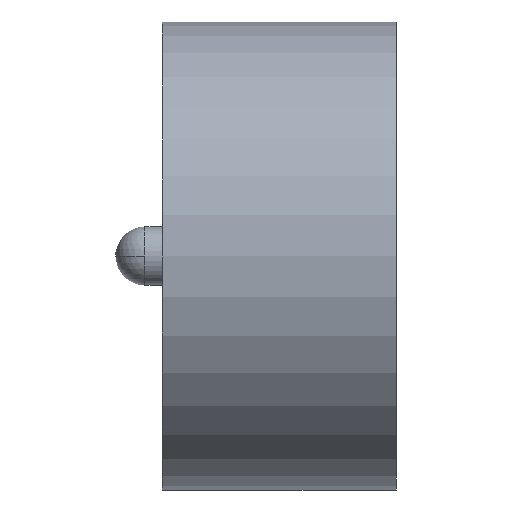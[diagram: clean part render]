
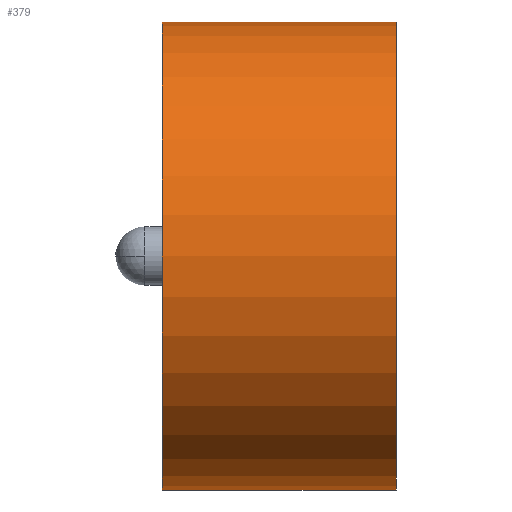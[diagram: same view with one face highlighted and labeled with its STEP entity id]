
A CAD part, left-side view. The second image highlights one B-rep face of the part: STEP entity #379.
In plain terms, the highlighted cylindrical face has radius 10 mm (diameter 20 mm), a partial arc.
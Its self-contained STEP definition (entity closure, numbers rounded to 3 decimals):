
#22 = VERTEX_POINT ( 'NONE', #201 ) ;
#29 = EDGE_CURVE ( 'NONE', #513, #638, #405, .T. ) ;
#40 = DIRECTION ( 'NONE',  ( 0., 0., -1. ) ) ;
#65 = CARTESIAN_POINT ( 'NONE',  ( -0.757, 10.5, 0. ) ) ;
#70 = AXIS2_PLACEMENT_3D ( 'NONE', #171, #519, #40 ) ;
#74 = LINE ( 'NONE', #867, #284 ) ;
#91 = ORIENTED_EDGE ( 'NONE', *, *, #315, .F. ) ;
#159 = VERTEX_POINT ( 'NONE', #568 ) ;
#171 = CARTESIAN_POINT ( 'NONE',  ( -0.757, 1.5, 0. ) ) ;
#201 = CARTESIAN_POINT ( 'NONE',  ( -0.757, 10.5, -10. ) ) ;
#217 = ORIENTED_EDGE ( 'NONE', *, *, #29, .F. ) ;
#244 = CIRCLE ( 'NONE', #810, 10. ) ;
#284 = VECTOR ( 'NONE', #652, 1000. ) ;
#315 = EDGE_CURVE ( 'NONE', #159, #513, #74, .T. ) ;
#349 = DIRECTION ( 'NONE',  ( 0., 0., -1. ) ) ;
#377 = EDGE_LOOP ( 'NONE', ( #91, #680, #522, #217 ) ) ;
#379 = ADVANCED_FACE ( 'NONE', ( #641 ), #701, .T. ) ;
#389 = CARTESIAN_POINT ( 'NONE',  ( -0.757, 1.5, -10. ) ) ;
#393 = AXIS2_PLACEMENT_3D ( 'NONE', #696, #835, #349 ) ;
#405 = CIRCLE ( 'NONE', #393, 10. ) ;
#471 = DIRECTION ( 'NONE',  ( 0., -1., 0. ) ) ;
#479 = VECTOR ( 'NONE', #471, 1000. ) ;
#485 = CARTESIAN_POINT ( 'NONE',  ( -0.757, 0.5, -10. ) ) ;
#513 = VERTEX_POINT ( 'NONE', #542 ) ;
#519 = DIRECTION ( 'NONE',  ( 0., -1., 0. ) ) ;
#522 = ORIENTED_EDGE ( 'NONE', *, *, #617, .T. ) ;
#542 = CARTESIAN_POINT ( 'NONE',  ( -0.757, 0.5, 10. ) ) ;
#554 = LINE ( 'NONE', #389, #479 ) ;
#568 = CARTESIAN_POINT ( 'NONE',  ( -0.757, 10.5, 10. ) ) ;
#581 = EDGE_CURVE ( 'NONE', #159, #22, #244, .T. ) ;
#617 = EDGE_CURVE ( 'NONE', #22, #638, #554, .T. ) ;
#638 = VERTEX_POINT ( 'NONE', #485 ) ;
#641 = FACE_OUTER_BOUND ( 'NONE', #377, .T. ) ;
#652 = DIRECTION ( 'NONE',  ( 0., -1., 0. ) ) ;
#680 = ORIENTED_EDGE ( 'NONE', *, *, #581, .T. ) ;
#687 = DIRECTION ( 'NONE',  ( 0., 0., -1. ) ) ;
#696 = CARTESIAN_POINT ( 'NONE',  ( -0.757, 0.5, 0. ) ) ;
#701 = CYLINDRICAL_SURFACE ( 'NONE', #70, 10. ) ;
#810 = AXIS2_PLACEMENT_3D ( 'NONE', #65, #896, #687 ) ;
#835 = DIRECTION ( 'NONE',  ( 0., -1., 0. ) ) ;
#867 = CARTESIAN_POINT ( 'NONE',  ( -0.757, 1.5, 10. ) ) ;
#896 = DIRECTION ( 'NONE',  ( 0., -1., 0. ) ) ;
